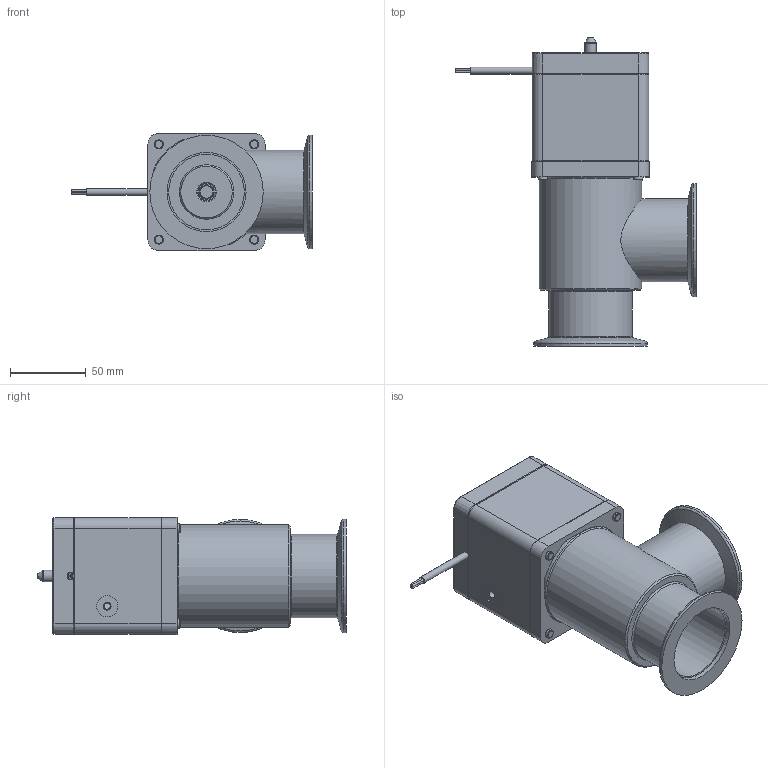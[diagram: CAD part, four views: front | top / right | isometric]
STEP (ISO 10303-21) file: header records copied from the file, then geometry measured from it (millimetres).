
FILE_DESCRIPTION(/* description */ (''),/* implementation_level */ '2;1');
FILE_NAME(/* name */ '1103895420_203.stp',/* time_stamp */ '2013-08-26T10:52:14+02:00',/* author */ (''),/* organization */ (''),/* preprocessor_version */ 'ST-DEVELOPER v11',/* originating_system */ 'SIEMENS PLM Software NX 7.5',/* authorisation */ '');
FILE_SCHEMA (('AP203_CONFIGURATION_CONTROLLED_3D_DESIGN_OF_MECHANICAL_PARTS_AND_ASSEMBLIES_MIM_LF'));
Length unit declared in the file: millimetre
Products named in the file (11): 248182.3; 252497.8; 248180.9; 239888_6.1; 245150; 236204_1.1; 258606.1; 256526.3; 224820.2; 248179.14; 702562
Assembly tree (14 placements, depth 3):
  702562
    248179.14
      248180.9
      252497.8
      248182.3
    224820.2  x4
    256526.3
    258606.1
    236204_1.1  x2
    245150
    239888_6.1
Bounding box: 159.2 x 203.79 x 77.4 mm (x, y, z)
Volume: 362485 mm3; surface area: 173819.6 mm2
Topology: 21 solids, 21 shells, 596 faces, 1427 edges, 918 vertices
Faces by surface type: plane 346, cylinder 116, cone 102, bspline 21, torus 11
Full cylindrical faces by diameter (mm): 1.4 x8, 2.5 x2, 2.95 x1, 3 x4, 4.2 x1, 4.6 x2, 4.7 x2, 4.96 x4, 5 x5, 5.6 x2, 6 x12, 6.6 x4, 7.4 x1, 8 x2, 8.175 x1, 9.1 x1, 10 x5, 11.975 x3, 12.015 x2, 13.85 x1, 14 x1, 16.555 x1, 36 x1, 50 x3, 52.2 x2, 55 x2, 63 x1, 63.05 x1, 67.9 x1, 69.45 x1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
Entity records: 17105 total; most frequent: CARTESIAN_POINT 3641, DIRECTION 2405, ORIENTED_EDGE 2270, EDGE_CURVE 1135, AXIS2_PLACEMENT_3D 877, VERTEX_POINT 807, EDGE_LOOP 732, LINE 651
